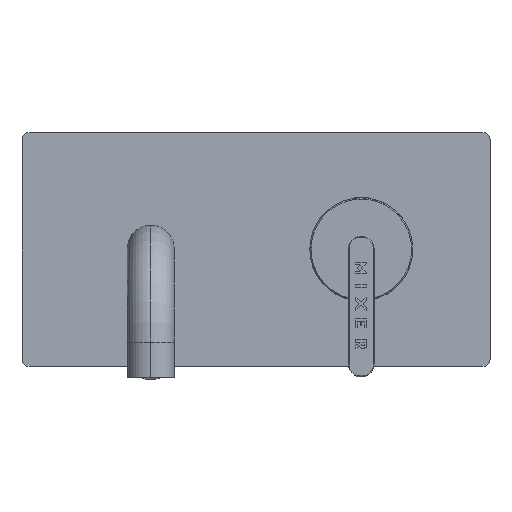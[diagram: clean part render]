
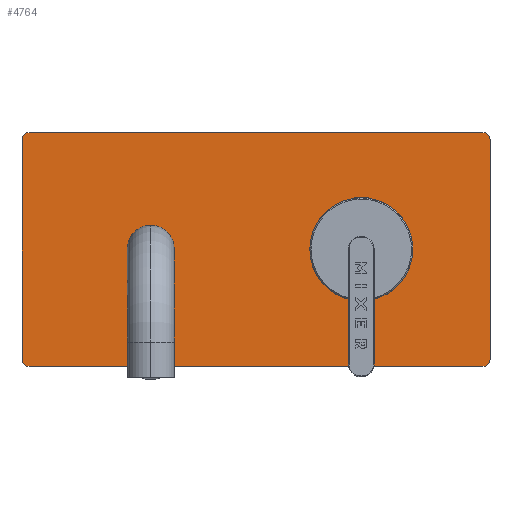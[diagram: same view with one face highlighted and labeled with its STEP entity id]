
A CAD part, top view. The second image highlights one B-rep face of the part: STEP entity #4764.
In plain terms, the highlighted planar face has unit normal (0, 0, 1).
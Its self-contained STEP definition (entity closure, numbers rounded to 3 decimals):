
#339 = DIRECTION ( 'NONE',  ( 1., 0., 0. ) ) ;
#974 = VERTEX_POINT ( 'NONE', #27814 ) ;
#1053 = CARTESIAN_POINT ( 'NONE',  ( 97., -50., 2. ) ) ;
#1283 = CARTESIAN_POINT ( 'NONE',  ( -100., 47., 2. ) ) ;
#1342 = EDGE_CURVE ( 'NONE', #40674, #14482, #27373, .T. ) ;
#1379 = EDGE_CURVE ( 'NONE', #25671, #974, #30086, .T. ) ;
#1822 = CARTESIAN_POINT ( 'NONE',  ( 100., 50., 2. ) ) ;
#2257 = ORIENTED_EDGE ( 'NONE', *, *, #41357, .T. ) ;
#2787 = VECTOR ( 'NONE', #13721, 1000. ) ;
#3195 = DIRECTION ( 'NONE',  ( 1., 0., 0. ) ) ;
#3512 = CARTESIAN_POINT ( 'NONE',  ( 45., 0., 2. ) ) ;
#3860 = DIRECTION ( 'NONE',  ( 0., 0., 1. ) ) ;
#4764 = ADVANCED_FACE ( 'NONE', ( #36714, #8144, #8358 ), #11945, .T. ) ;
#5183 = CIRCLE ( 'NONE', #6545, 3. ) ;
#5506 = EDGE_LOOP ( 'NONE', ( #8806, #21922 ) ) ;
#5620 = DIRECTION ( 'NONE',  ( 0., 0., 1. ) ) ;
#6064 = CARTESIAN_POINT ( 'NONE',  ( 24.3, 0., 2. ) ) ;
#6163 = VERTEX_POINT ( 'NONE', #1283 ) ;
#6291 = CARTESIAN_POINT ( 'NONE',  ( 45., 0., 2. ) ) ;
#6529 = VERTEX_POINT ( 'NONE', #23389 ) ;
#6545 = AXIS2_PLACEMENT_3D ( 'NONE', #30413, #7593, #29983 ) ;
#6649 = EDGE_CURVE ( 'NONE', #974, #6529, #27377, .T. ) ;
#7593 = DIRECTION ( 'NONE',  ( 0., 0., 1. ) ) ;
#7864 = EDGE_CURVE ( 'NONE', #23157, #27906, #5183, .T. ) ;
#8007 = LINE ( 'NONE', #10574, #2787 ) ;
#8129 = DIRECTION ( 'NONE',  ( 1., 0., 0. ) ) ;
#8144 = FACE_OUTER_BOUND ( 'NONE', #22546, .T. ) ;
#8358 = FACE_BOUND ( 'NONE', #5506, .T. ) ;
#8806 = ORIENTED_EDGE ( 'NONE', *, *, #22383, .F. ) ;
#9475 = DIRECTION ( 'NONE',  ( 0., 0., 1. ) ) ;
#9552 = AXIS2_PLACEMENT_3D ( 'NONE', #10166, #12914, #3195 ) ;
#10166 = CARTESIAN_POINT ( 'NONE',  ( 97., -47., 2. ) ) ;
#10574 = CARTESIAN_POINT ( 'NONE',  ( 100., -50., 2. ) ) ;
#10979 = LINE ( 'NONE', #13719, #31074 ) ;
#11140 = ORIENTED_EDGE ( 'NONE', *, *, #1342, .F. ) ;
#11158 = EDGE_CURVE ( 'NONE', #29638, #25671, #10979, .T. ) ;
#11304 = AXIS2_PLACEMENT_3D ( 'NONE', #11431, #24320, #21798 ) ;
#11375 = EDGE_CURVE ( 'NONE', #14482, #40674, #28297, .T. ) ;
#11431 = CARTESIAN_POINT ( 'NONE',  ( -45., 0., 2. ) ) ;
#11711 = EDGE_CURVE ( 'NONE', #13110, #35424, #20240, .T. ) ;
#11945 = PLANE ( 'NONE',  #24881 ) ;
#12775 = AXIS2_PLACEMENT_3D ( 'NONE', #6291, #9475, #26161 ) ;
#12914 = DIRECTION ( 'NONE',  ( 0., 0., 1. ) ) ;
#13110 = VERTEX_POINT ( 'NONE', #41599 ) ;
#13574 = DIRECTION ( 'NONE',  ( 1., 0., 0. ) ) ;
#13719 = CARTESIAN_POINT ( 'NONE',  ( 100., -50., 2. ) ) ;
#13721 = DIRECTION ( 'NONE',  ( 1., 0., 0. ) ) ;
#13804 = ORIENTED_EDGE ( 'NONE', *, *, #11158, .T. ) ;
#14464 = ORIENTED_EDGE ( 'NONE', *, *, #6649, .T. ) ;
#14482 = VERTEX_POINT ( 'NONE', #6064 ) ;
#14876 = AXIS2_PLACEMENT_3D ( 'NONE', #17381, #3860, #13574 ) ;
#15073 = CARTESIAN_POINT ( 'NONE',  ( -53.5, 0., 2. ) ) ;
#16400 = DIRECTION ( 'NONE',  ( 0., 0., 1. ) ) ;
#16593 = AXIS2_PLACEMENT_3D ( 'NONE', #33309, #17227, #8129 ) ;
#17227 = DIRECTION ( 'NONE',  ( 0., 0., 1. ) ) ;
#17381 = CARTESIAN_POINT ( 'NONE',  ( -97., 47., 2. ) ) ;
#17660 = DIRECTION ( 'NONE',  ( 0., 0., 1. ) ) ;
#17959 = AXIS2_PLACEMENT_3D ( 'NONE', #3512, #16400, #339 ) ;
#18525 = DIRECTION ( 'NONE',  ( 1., 0., 0. ) ) ;
#18768 = CIRCLE ( 'NONE', #11304, 8.5 ) ;
#19594 = AXIS2_PLACEMENT_3D ( 'NONE', #28020, #5620, #18525 ) ;
#20240 = CIRCLE ( 'NONE', #19594, 8.5 ) ;
#20775 = LINE ( 'NONE', #37075, #31801 ) ;
#21798 = DIRECTION ( 'NONE',  ( 1., 0., 0. ) ) ;
#21922 = ORIENTED_EDGE ( 'NONE', *, *, #11711, .F. ) ;
#22383 = EDGE_CURVE ( 'NONE', #35424, #13110, #18768, .T. ) ;
#22546 = EDGE_LOOP ( 'NONE', ( #14464, #31223, #2257, #36391, #25105, #24344, #13804, #40521 ) ) ;
#23157 = VERTEX_POINT ( 'NONE', #26961 ) ;
#23389 = CARTESIAN_POINT ( 'NONE',  ( -97., 50., 2. ) ) ;
#24320 = DIRECTION ( 'NONE',  ( 0., 0., 1. ) ) ;
#24344 = ORIENTED_EDGE ( 'NONE', *, *, #41666, .T. ) ;
#24881 = AXIS2_PLACEMENT_3D ( 'NONE', #31186, #17660, #37144 ) ;
#25105 = ORIENTED_EDGE ( 'NONE', *, *, #32110, .T. ) ;
#25671 = VERTEX_POINT ( 'NONE', #33356 ) ;
#26161 = DIRECTION ( 'NONE',  ( 1., 0., 0. ) ) ;
#26416 = EDGE_CURVE ( 'NONE', #6529, #6163, #37186, .T. ) ;
#26961 = CARTESIAN_POINT ( 'NONE',  ( -100., -47., 2. ) ) ;
#27373 = CIRCLE ( 'NONE', #17959, 20.7 ) ;
#27377 = LINE ( 'NONE', #1822, #30940 ) ;
#27770 = CARTESIAN_POINT ( 'NONE',  ( -97., -50., 2. ) ) ;
#27814 = CARTESIAN_POINT ( 'NONE',  ( 97., 50., 2. ) ) ;
#27906 = VERTEX_POINT ( 'NONE', #27770 ) ;
#28020 = CARTESIAN_POINT ( 'NONE',  ( -45., 0., 2. ) ) ;
#28297 = CIRCLE ( 'NONE', #12775, 20.7 ) ;
#28472 = ORIENTED_EDGE ( 'NONE', *, *, #11375, .F. ) ;
#29638 = VERTEX_POINT ( 'NONE', #37295 ) ;
#29983 = DIRECTION ( 'NONE',  ( 1., 0., 0. ) ) ;
#30086 = CIRCLE ( 'NONE', #16593, 3. ) ;
#30413 = CARTESIAN_POINT ( 'NONE',  ( -97., -47., 2. ) ) ;
#30477 = DIRECTION ( 'NONE',  ( 0., -1., 0. ) ) ;
#30940 = VECTOR ( 'NONE', #40752, 1000. ) ;
#31074 = VECTOR ( 'NONE', #39539, 1000. ) ;
#31186 = CARTESIAN_POINT ( 'NONE',  ( 0., 0., 2. ) ) ;
#31223 = ORIENTED_EDGE ( 'NONE', *, *, #26416, .T. ) ;
#31267 = CARTESIAN_POINT ( 'NONE',  ( 65.7, 0., 2. ) ) ;
#31801 = VECTOR ( 'NONE', #30477, 1000. ) ;
#32110 = EDGE_CURVE ( 'NONE', #27906, #40465, #8007, .T. ) ;
#33309 = CARTESIAN_POINT ( 'NONE',  ( 97., 47., 2. ) ) ;
#33356 = CARTESIAN_POINT ( 'NONE',  ( 100., 47., 2. ) ) ;
#33907 = EDGE_LOOP ( 'NONE', ( #28472, #11140 ) ) ;
#35424 = VERTEX_POINT ( 'NONE', #15073 ) ;
#35893 = CIRCLE ( 'NONE', #9552, 3. ) ;
#36391 = ORIENTED_EDGE ( 'NONE', *, *, #7864, .T. ) ;
#36714 = FACE_BOUND ( 'NONE', #33907, .T. ) ;
#37075 = CARTESIAN_POINT ( 'NONE',  ( -100., -50., 2. ) ) ;
#37144 = DIRECTION ( 'NONE',  ( 1., 0., 0. ) ) ;
#37186 = CIRCLE ( 'NONE', #14876, 3. ) ;
#37295 = CARTESIAN_POINT ( 'NONE',  ( 100., -47., 2. ) ) ;
#39539 = DIRECTION ( 'NONE',  ( 0., 1., 0. ) ) ;
#40465 = VERTEX_POINT ( 'NONE', #1053 ) ;
#40521 = ORIENTED_EDGE ( 'NONE', *, *, #1379, .T. ) ;
#40674 = VERTEX_POINT ( 'NONE', #31267 ) ;
#40752 = DIRECTION ( 'NONE',  ( -1., 0., 0. ) ) ;
#41357 = EDGE_CURVE ( 'NONE', #6163, #23157, #20775, .T. ) ;
#41599 = CARTESIAN_POINT ( 'NONE',  ( -36.5, 0., 2. ) ) ;
#41666 = EDGE_CURVE ( 'NONE', #40465, #29638, #35893, .T. ) ;
